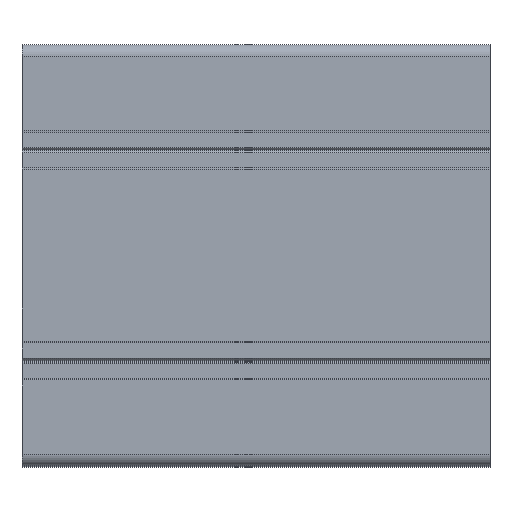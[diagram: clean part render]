
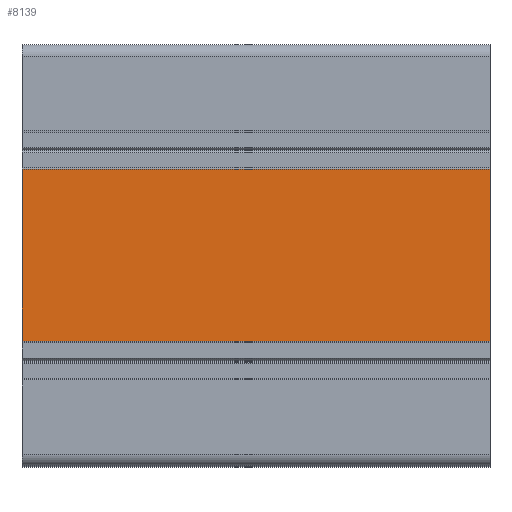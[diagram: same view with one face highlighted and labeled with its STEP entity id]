
A CAD part, top view. The second image highlights one B-rep face of the part: STEP entity #8139.
In plain terms, the highlighted planar face has unit normal (0, 0, 1).
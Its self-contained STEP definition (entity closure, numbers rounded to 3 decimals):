
#124=PLANE('',#8677);
#409=FACE_OUTER_BOUND('',#825,.T.);
#825=EDGE_LOOP('',(#5827,#5828,#5829,#5830));
#1425=LINE('',#12414,#2303);
#1427=LINE('',#12418,#2305);
#1428=LINE('',#12420,#2306);
#1429=LINE('',#12421,#2307);
#2303=VECTOR('',#9939,1000.);
#2305=VECTOR('',#9943,1000.);
#2306=VECTOR('',#9944,1000.);
#2307=VECTOR('',#9945,1000.);
#3539=VERTEX_POINT('',#12411);
#3540=VERTEX_POINT('',#12413);
#3541=VERTEX_POINT('',#12417);
#3542=VERTEX_POINT('',#12419);
#4475=EDGE_CURVE('',#3540,#3539,#1425,.T.);
#4477=EDGE_CURVE('',#3539,#3541,#1427,.T.);
#4478=EDGE_CURVE('',#3542,#3541,#1428,.T.);
#4479=EDGE_CURVE('',#3540,#3542,#1429,.T.);
#5827=ORIENTED_EDGE('',*,*,#4477,.T.);
#5828=ORIENTED_EDGE('',*,*,#4478,.F.);
#5829=ORIENTED_EDGE('',*,*,#4479,.F.);
#5830=ORIENTED_EDGE('',*,*,#4475,.T.);
#8139=ADVANCED_FACE('',(#409),#124,.F.);
#8677=AXIS2_PLACEMENT_3D('',#12416,#9941,#9942);
#9939=DIRECTION('',(-1.,0.,0.));
#9941=DIRECTION('center_axis',(0.,0.,-1.));
#9942=DIRECTION('ref_axis',(-1.,0.,0.));
#9943=DIRECTION('',(0.,-1.,0.));
#9944=DIRECTION('',(-1.,0.,0.));
#9945=DIRECTION('',(0.,-1.,0.));
#12411=CARTESIAN_POINT('',(-40.816,73.248,90.));
#12413=CARTESIAN_POINT('',(59.184,73.248,90.));
#12414=CARTESIAN_POINT('',(59.184,73.248,90.));
#12416=CARTESIAN_POINT('Origin',(59.184,36.548,90.));
#12417=CARTESIAN_POINT('',(-40.816,36.548,90.));
#12418=CARTESIAN_POINT('',(-40.816,36.548,90.));
#12419=CARTESIAN_POINT('',(59.184,36.548,90.));
#12420=CARTESIAN_POINT('',(59.184,36.548,90.));
#12421=CARTESIAN_POINT('',(59.184,36.548,90.));
